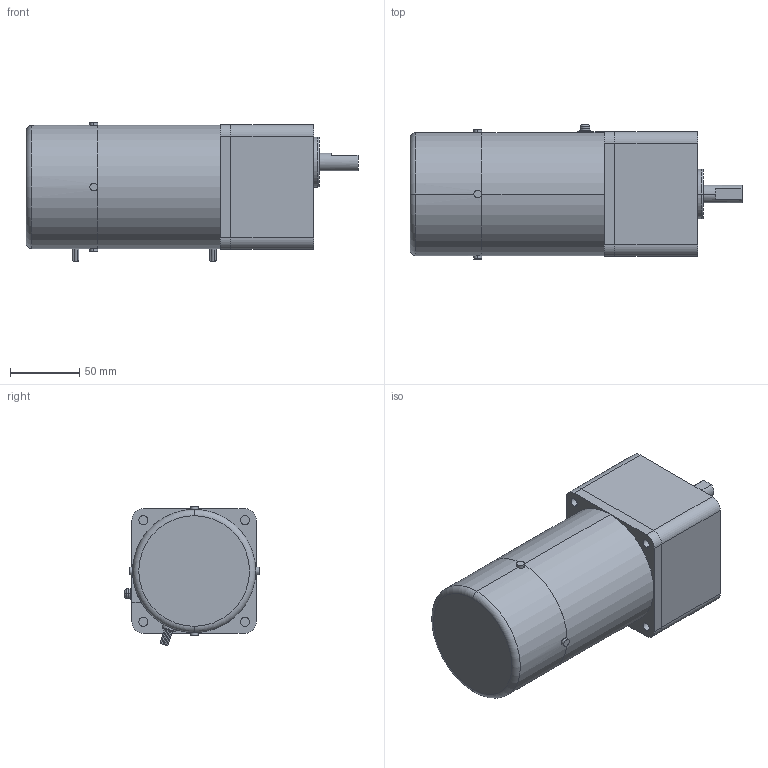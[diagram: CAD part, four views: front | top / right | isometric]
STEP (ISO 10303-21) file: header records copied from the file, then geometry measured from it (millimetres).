
FILE_DESCRIPTION(('starvars output'),'2;1');
FILE_NAME('5IK40GN-SW2M _ 5GN180SA.stp','14:12:56 2015/05/11',( 'Thomas Industrial Network Germany GmbH'),( 'Thomas Industrial Network Germany GmbH'),'unknown preprocess','ACIS' ,'unknown authorization');
FILE_SCHEMA(('AUTOMOTIVE_DESIGN_CC2 {UNKNOWN IMPLEMENTATION LEVEL}'));
Length unit declared in the file: millimetre
Products named in the file (1): PRODUCT_ID_2721
Bounding box: 240 x 96.9 x 101.02 mm (x, y, z)
Volume: 1407503.9 mm3; surface area: 87018.4 mm2
Topology: 1 solids, 1 shells, 133 faces, 298 edges, 196 vertices
Faces by surface type: cylinder 72, plane 51, torus 10
Entity records: 4799 total; most frequent: CARTESIAN_POINT 933, ORIENTED_EDGE 596, DIRECTION 512, EDGE_CURVE 298, VERTEX_POINT 196, AXIS2_PLACEMENT_3D 195, EDGE_LOOP 162, FACE_BOUND 162
